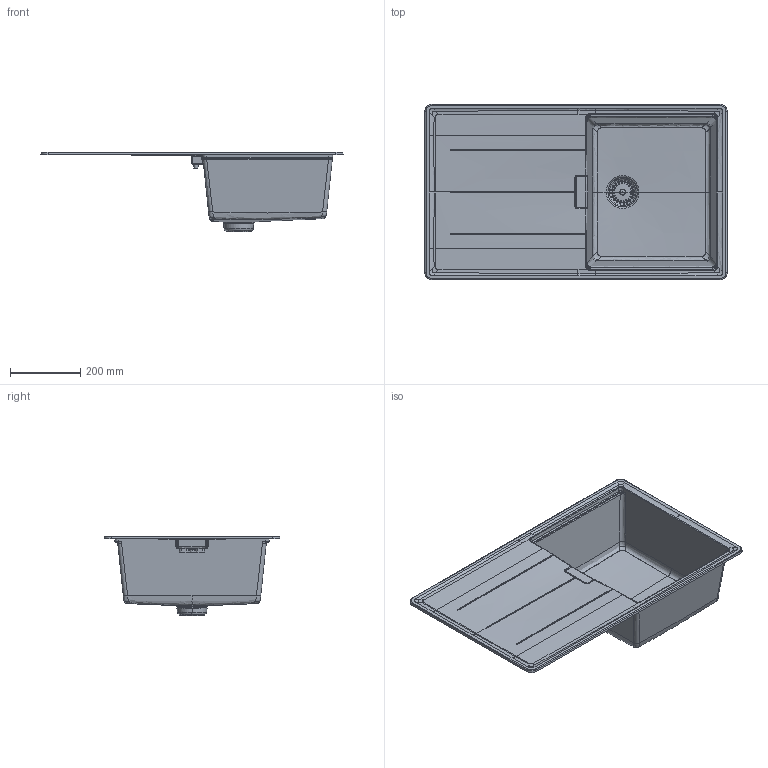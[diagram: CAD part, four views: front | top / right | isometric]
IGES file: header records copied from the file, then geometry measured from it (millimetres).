
Global section: file name: /Users/office3/Desktop/SPU; preprocessor: Trout Lake IGES 012 Dec  4 2019; date: 210309.160334; units: millimetre
Bounding box: 860 x 500 x 227.14 mm (x, y, z)
Surface area: 722987.6 mm2 (no closed solid volume)
Topology: 0 solids, 0 shells, 469 faces, 40613 edges, 40605 vertices
Faces by surface type: bspline 431, plane 38
